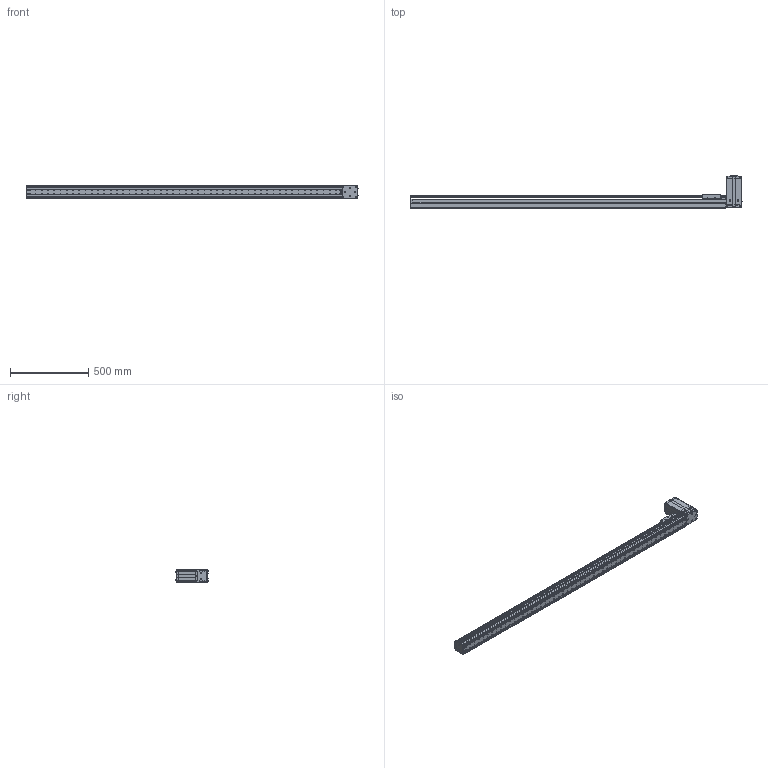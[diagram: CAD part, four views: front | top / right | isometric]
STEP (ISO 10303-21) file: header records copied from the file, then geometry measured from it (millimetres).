
FILE_DESCRIPTION((''),'2;1');
FILE_NAME('BE10_-BT-M_N-J0_IGS_PRT','2017-06-18T',(' '),(''),'PRO/ENGINEER BY PARAMETRIC TECHNOLOGY CORPORATION, 2015030','PRO/ENGINEER BY PARAMETRIC TECHNOLOGY CORPORATION, 2015030','');
FILE_SCHEMA(('CONFIG_CONTROL_DESIGN'));
Products named in the file (1): BE10_-BT-M_N-J0_IGS_PRT
Bounding box: 2120.8 x 204.72 x 78 mm (x, y, z)
Volume: 2758558.7 mm3; surface area: 1953974.9 mm2
Topology: 5 solids, 179 shells, 2374 faces, 6496 edges, 4330 vertices
Faces by surface type: cylinder 1136, plane 1075, cone 107, sphere 28, torus 25, bspline 3
Entity records: 77756 total; most frequent: CARTESIAN_POINT 16100, DIRECTION 13142, ORIENTED_EDGE 12172, EDGE_CURVE 6424, AXIS2_PLACEMENT_3D 4835, VERTEX_POINT 4325, VECTOR 3472, LINE 3472
